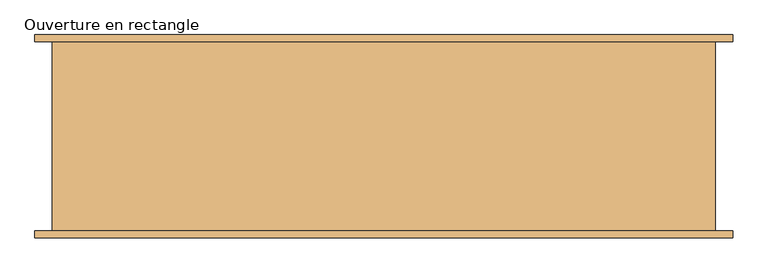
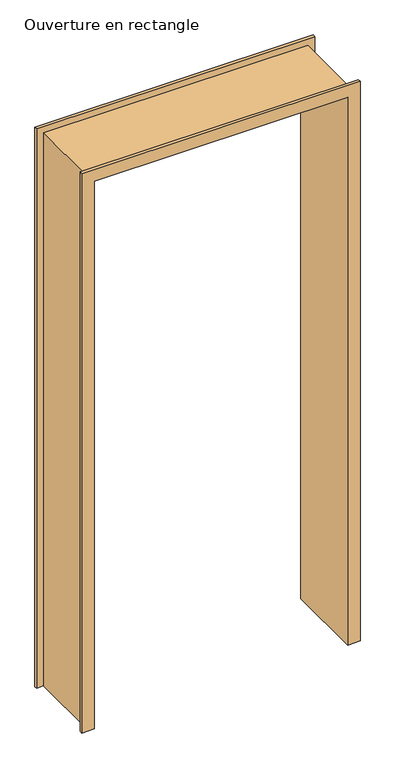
"""IFC4 building model written with IfcOpenShell, lengths in millimetres: door geometry, Ouverture en rectangle : Ouverture Loge."""

from ifc_helpers import new_model, si_unit, origin, place, context, project, spatial, faceted_brep, source, transform, mapped, element, save


def ouverture_en_rectangle_191bbca3(model_context):
    return source(origin(), model_context, "Body", "Brep", [
        faceted_brep([(-475.0, -135.5, 0.0), (-475.0, 135.5, 0.0), (-500.0, 135.5, 0.0), (-500.0, 145.5, 0.0), (-455.0, 145.5, 0.0), (-455.0, -145.5, 0.0), (-500.0, -145.5, 0.0), (-500.0, -135.5, 0.0), (-475.0, -135.5, 2100.0), (-475.0, 135.5, 2100.0), (475.0, 135.5, 2100.0), (475.0, 135.5, 0.0), (500.0, 135.5, 0.0), (500.0, 135.5, 2125.0), (-500.0, 135.5, 2125.0), (-500.0, 145.5, 2125.0), (500.0, 145.5, 2125.0), (500.0, 145.5, 0.0), (455.0, 145.5, 0.0), (455.0, 145.5, 2080.0), (-455.0, 145.5, 2080.0), (-455.0, -145.5, 2080.0), (455.0, -145.5, 2080.0), (455.0, -145.5, 0.0), (500.0, -145.5, 0.0), (500.0, -145.5, 2125.0), (-500.0, -145.5, 2125.0), (-500.0, -135.5, 2125.0), (500.0, -135.5, 2125.0), (500.0, -135.5, 0.0), (475.0, -135.5, 0.0), (475.0, -135.5, 2100.0)], [[[0, 1, 2, 3, 4, 5, 6, 7]], [[1, 0, 8, 9]], [[2, 1, 9, 10, 11, 12, 13, 14]], [[3, 2, 14, 15]], [[4, 3, 15, 16, 17, 18, 19, 20]], [[5, 4, 20, 21]], [[6, 5, 21, 22, 23, 24, 25, 26]], [[7, 6, 26, 27]], [[0, 7, 27, 28, 29, 30, 31, 8]], [[10, 31, 30, 11]], [[30, 29, 24, 23, 18, 17, 12, 11]], [[16, 13, 12, 17]], [[22, 19, 18, 23]], [[28, 25, 24, 29]], [[9, 8, 31, 10]], [[15, 14, 13, 16]], [[21, 20, 19, 22]], [[27, 26, 25, 28]]]),
    ])


if __name__ == "__main__":
    model = new_model("IFC4")
    model_context = context("Model", 3, world=origin())
    ifc_project = project(units=[si_unit("LENGTHUNIT", "METRE", prefix="MILLI")], contexts=[model_context])
    site = spatial("IfcSite", under=ifc_project)
    building = spatial("IfcBuilding", under=site)
    placement = place(None, origin())
    ouverture_en_rectangle_shape = ouverture_en_rectangle_191bbca3(model_context)
    element("IfcDoor", 1, ObjectType="Ouverture en rectangle : Ouverture Loge", at=placement, inside=building, context=model_context, shape_type="MappedRepresentation", body=[
        mapped(ouverture_en_rectangle_shape, transform((0.0, 0.0, 0.0), x_axis=(1.0, 0.0, 0.0), y_axis=(0.0, 1.0, 0.0), z_axis=(0.0, 0.0, 1.0))),
    ])
    save(model, "model.ifc")
